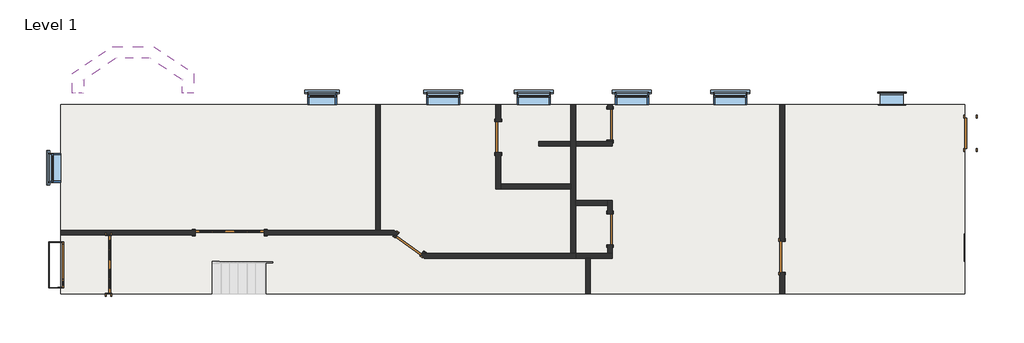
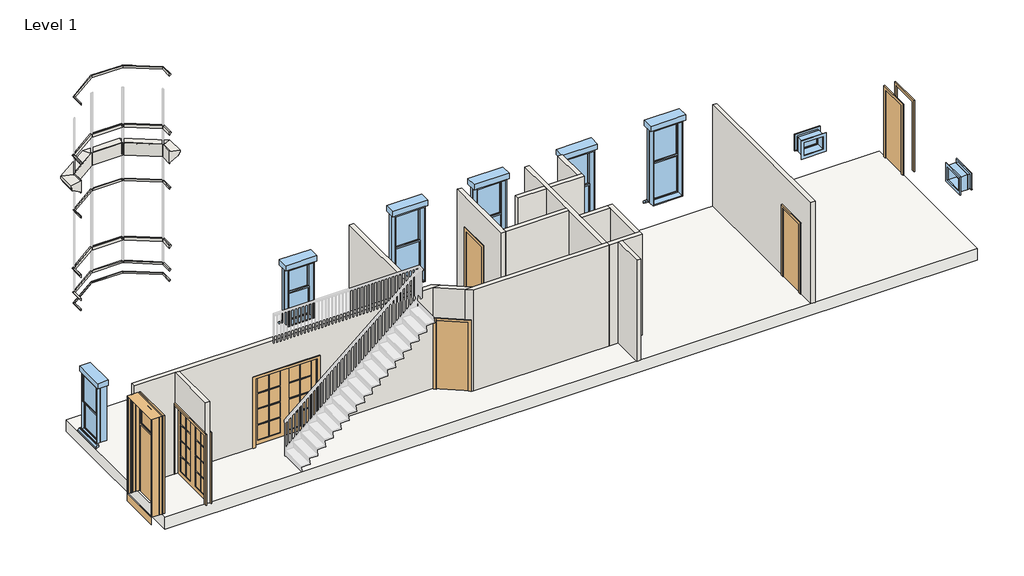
# One storey, part 1 of 2: 17 walls, 9 doors, 8 windows, 1 slab.
"""IFC4 building model written with IfcOpenShell, lengths in millimetres."""

from ifc_helpers import new_model, si_unit, frame, origin, origin_with_axes, place, context, project, spatial, polyline, outline, extrude, faceted_brep, transform, mapped, element, save
from components import door_341c2aa2, door_916035b4, door_1501_frontdoor_door_1501_frontdoor_4eb3a074, door_a55f82fb, door_a75b9756, door_ba4c5d75, bay_trim1_bay_trim_52e5bb5f, window_3f22af70, window_0ba6dfd4, window_bb48f2e8

model = new_model("IFC4")

# Units and contexts
model_context = context("Model", 3, world=origin())
ifc_project = project(units=[si_unit("LENGTHUNIT", "METRE", prefix="MILLI")], contexts=[model_context])

# Site, building, storey
site = spatial("IfcSite", under=ifc_project)
building = spatial("IfcBuilding", under=site)
storey = spatial("IfcBuildingStorey", under=building, Name="Level 1", Elevation=0.0)

# Doors
placement = place(None, origin())
door_shape = door_341c2aa2(model_context)
element("IfcDoor", 1, ObjectType="DOOR- : 60\" x 84\"", at=placement, inside=storey, context=model_context, shape_type="MappedRepresentation", body=[
    mapped(door_shape, transform((-18756.4535292, -1023.9064015, 0.0), x_axis=(0.0, -1.0, 0.0), y_axis=(1.0, 0.0, 0.0), z_axis=(0.0, 0.0, 1.0))),
])
door_2_shape = door_916035b4(model_context)
element("IfcDoor", 2, ObjectType="DOOR- : 72\" x 84\"", at=placement, inside=storey, context=model_context, shape_type="MappedRepresentation", body=[
    mapped(door_2_shape, transform((-15556.0535292, -185.7064015, 0.0), x_axis=(-1.0, 0.0, 0.0), y_axis=(0.0, -1.0, 0.0), z_axis=(0.0, 0.0, 1.0))),
])
door_1501_frontdoor_door_1501_frontdoor_shape = door_1501_frontdoor_door_1501_frontdoor_4eb3a074(model_context)
element("IfcDoor", 3, ObjectType="DOOR-1501 FrontDoor : DOOR-1501 FrontDoor", at=placement, inside=storey, context=model_context, shape_type="MappedRepresentation", body=[
    mapped(door_1501_frontdoor_door_1501_frontdoor_shape, transform((-20166.1535292, -1036.6064015, 0.0), x_axis=(0.0, -1.0, 0.0), y_axis=(1.0, 0.0, 0.0), z_axis=(0.0, 0.0, 1.0))),
])
door_3_shape = door_a55f82fb(model_context)
element("IfcDoor", 4, ObjectType="DOOR-Single-Flush : 32\" x 84\"", at=placement, inside=storey, context=model_context, shape_type="MappedRepresentation", body=[
    mapped(door_3_shape, transform((4001.9464708, 2443.1935985, 0.0), x_axis=(0.0, 1.0, 0.0), y_axis=(-1.0, 0.0, 0.0), z_axis=(0.0, 0.0, 1.0))),
])
door_4_shape = door_a75b9756(model_context)
element("IfcDoor", 5, ObjectType="DOOR-Single-Flush : 32\" x 84\"", at=placement, inside=storey, context=model_context, shape_type="MappedRepresentation", body=[
    mapped(door_4_shape, transform((-976.4535292, -820.7064015, 0.0), x_axis=(0.0, 1.0, 0.0), y_axis=(-1.0, 0.0, 0.0), z_axis=(0.0, 0.0, 1.0))),
])
element("IfcDoor", 6, ObjectType="DOOR-Single-Flush : 32\" x 84\"", at=placement, inside=storey, context=model_context, shape_type="MappedRepresentation", body=[
    mapped(door_4_shape, transform((-10809.9382317, -492.9648771, 0.0), x_axis=(-0.8081148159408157, 0.5890249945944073, 0.0), y_axis=(-0.5890249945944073, -0.8081148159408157, 0.0), z_axis=(0.0, 0.0, 1.0))),
])
element("IfcDoor", 7, ObjectType="DOOR-Single-Flush : 32\" x 84\"", at=placement, inside=storey, context=model_context, shape_type="MappedRepresentation", body=[
    mapped(door_4_shape, transform((-5516.7035292, -96.8064015, 0.0), x_axis=(0.0, -1.0, 0.0), y_axis=(1.0, 0.0, 0.0), z_axis=(0.0, 0.0, 1.0))),
])
door_5_shape = door_ba4c5d75(model_context)
element("IfcDoor", 8, ObjectType="DOOR-Single-Flush : 32\" x 84\"", at=placement, inside=storey, context=model_context, shape_type="MappedRepresentation", body=[
    mapped(door_5_shape, transform((-8469.4535292, 2341.5935985, 0.0), x_axis=(0.0, -1.0, 0.0), y_axis=(1.0, 0.0, 0.0), z_axis=(0.0, 0.0, 1.0))),
])
element("IfcDoor", 9, ObjectType="DOOR-Single-Flush : 32\" x 84\"", at=placement, inside=storey, context=model_context, shape_type="MappedRepresentation", body=[
    mapped(door_5_shape, transform((-5516.7035292, 2671.7935985, 0.0), x_axis=(0.0, 1.0, 0.0), y_axis=(-1.0, 0.0, 0.0), z_axis=(0.0, 0.0, 1.0))),
])

# Slab
element("IfcSlab", 10, ObjectType="1501 Joist floor", at=placement, inside=storey, context=model_context, shape_type="Brep", body=[
    faceted_brep([(-20013.7535292, 3205.1935985, -361.95), (3849.5464708, 3205.1935985, -361.95), (3849.5464708, -1798.6064015, -361.95), (-20013.7535292, -1798.6064015, -361.95), (-20013.7535292, 3205.1935985, 0.0), (-20013.7535292, -427.0064015, 0.0), (-20013.7535292, -1646.2064015, 0.0), (-20013.7535292, -1798.6064015, 0.0), (3849.5464708, -1798.6064015, 0.0), (3849.5464708, 2036.7935985, 0.0), (3849.5464708, 2849.5935985, 0.0), (3849.5464708, 3205.1935985, 0.0)], [[[0, 1, 2, 3]], [[4, 5, 6, 7, 8, 9, 10, 11]], [[1, 0, 4, 11]], [[2, 1, 11, 10, 9, 8]], [[3, 2, 8, 7]], [[0, 3, 7, 6, 5, 4]]]),
])

# Walls
bay_trim1_bay_trim_shape = bay_trim1_bay_trim_52e5bb5f(model_context)
element("IfcWall", 11, ObjectType="Bay trim1 : Bay trim", at=placement, inside=storey, context=model_context, shape_type="MappedRepresentation", body=[
    mapped(bay_trim1_bay_trim_shape, transform((0.0, 0.0, 0.0), x_axis=(1.0, 0.0, 0.0), y_axis=(0.0, 1.0, 0.0), z_axis=(0.0, 0.0, 1.0))),
])
element("IfcWall", 12, ObjectType="Generic - 5\"", at=placement, inside=storey, context=model_context, shape_type="Brep", body=[
    faceted_brep([(-20013.7535292, -249.2064015, 3143.25), (-20013.7535292, -249.2064015, 0.0), (-18819.9535292, -249.2064015, 0.0), (-18692.9535292, -249.2064015, 0.0), (-16470.4535292, -249.2064015, 0.0), (-16470.4535292, -249.2064015, 2133.6), (-14641.6535292, -249.2064015, 2133.6), (-14641.6535292, -249.2064015, 0.0), (-11252.1687619, -249.2064015, 0.0), (-11135.1644991, -249.2064015, 0.0), (-11135.1644991, -249.2064015, 2133.6), (-11036.558217, -249.2064015, 2133.6), (-11036.558217, -249.2064015, 3143.25), (-11252.1687619, -249.2064015, 3143.25), (-18692.9535292, -249.2064015, 3143.25), (-18819.9535292, -249.2064015, 3143.25), (-20013.7535292, -122.2064015, 0.0), (-20013.7535292, -122.2064015, 3143.25), (-11707.9535292, -122.2064015, 3143.25), (-11580.9535292, -122.2064015, 3143.25), (-11210.7962928, -122.2064015, 3143.25), (-11210.7962928, -122.2064015, 0.0), (-11580.9535292, -122.2064015, 0.0), (-11707.9535292, -122.2064015, 0.0), (-14641.6535292, -122.2064015, 0.0), (-14641.6535292, -122.2064015, 2133.6), (-16470.4535292, -122.2064015, 2133.6), (-16470.4535292, -122.2064015, 0.0), (-11100.9530057, -202.2698285, 0.0), (-11100.9530057, -202.2698285, 2133.6)], [[[0, 1, 2, 3, 4, 5, 6, 7, 8, 9, 10, 11, 12, 13, 14, 15]], [[16, 17, 18, 19, 20, 21, 22, 23, 24, 25, 26, 27]], [[1, 16, 27, 4, 3, 2]], [[24, 23, 22, 21, 28, 9, 8, 7]], [[1, 0, 17, 16]], [[21, 20, 12, 11, 29, 28]], [[26, 5, 4, 27]], [[5, 26, 25, 6]], [[6, 25, 24, 7]], [[29, 10, 9, 28]], [[10, 29, 11]], [[0, 15, 14, 13, 12, 20, 19, 18, 17]]]),
])
element("IfcWall", 13, ObjectType="Generic - 5\"", at=placement, inside=storey, context=model_context, shape_type="SweptSolid", body=[
    extrude(outline(polyline([(-11580.9535292, 3205.1935985), (-11580.9535292, -122.2064015), (-11707.9535292, -122.2064015), (-11707.9535292, 3205.1935985), (-11580.9535292, 3205.1935985)])), origin_with_axes(), (0.0, 0.0, 1.0), 3143.25),
])
element("IfcWall", 14, ObjectType="Generic - 5\"", at=placement, inside=storey, context=model_context, shape_type="Brep", body=[
    faceted_brep([(-10415.8259983, -858.8064015, 0.0), (-6424.7535292, -858.8064015, 0.0), (-6424.7535292, -858.8064015, 3143.25), (-10415.8259983, -858.8064015, 3143.25), (-6424.7535292, -731.8064015, 3143.25), (-6424.7535292, -731.8064015, 0.0), (-6551.7535292, -731.8064015, 0.0), (-10374.4535292, -731.8064015, 0.0), (-10481.1280587, -731.8064015, 0.0), (-10481.1280587, -731.8064015, 2133.6), (-10590.064074, -731.8064015, 2133.6), (-10590.064074, -731.8064015, 3143.25), (-10374.4535292, -731.8064015, 3143.25), (-6551.7535292, -731.8064015, 3143.25), (-10518.9234576, -783.6599257, 0.0), (-10518.9234576, -783.6599257, 2133.6)], [[[0, 1, 2, 3]], [[4, 5, 6, 7, 8, 9, 10, 11, 12, 13]], [[1, 0, 14, 8, 7, 6, 5]], [[2, 1, 5, 4]], [[0, 3, 11, 10, 15, 14]], [[9, 15, 10]], [[15, 9, 8, 14]], [[3, 2, 4, 13, 12, 11]]]),
])
element("IfcWall", 15, ObjectType="Generic - 5\"", at=placement, inside=storey, context=model_context, shape_type="Brep", body=[
    faceted_brep([(-6551.7535292, 3205.1935985, 0.0), (-6551.7535292, 2227.2935985, 0.0), (-6551.7535292, 2100.2935985, 0.0), (-6551.7535292, 1096.9935985, 0.0), (-6551.7535292, 969.9935985, 0.0), (-6551.7535292, -731.8064015, 0.0), (-6551.7535292, -731.8064015, 3143.25), (-6551.7535292, 969.9935985, 3143.25), (-6551.7535292, 1096.9935985, 3143.25), (-6551.7535292, 2100.2935985, 3143.25), (-6551.7535292, 2227.2935985, 3143.25), (-6551.7535292, 3205.1935985, 3143.25), (-6424.7535292, 3205.1935985, 0.0), (-6424.7535292, 3205.1935985, 3143.25), (-6424.7535292, 2227.2935985, 3143.25), (-6424.7535292, 2100.2935985, 3143.25), (-6424.7535292, 665.1935985, 3143.25), (-6424.7535292, 538.1935985, 3143.25), (-6424.7535292, -731.8064015, 3143.25), (-6424.7535292, -731.8064015, 0.0), (-6424.7535292, 538.1935985, 0.0), (-6424.7535292, 665.1935985, 0.0), (-6424.7535292, 2100.2935985, 0.0), (-6424.7535292, 2227.2935985, 0.0)], [[[0, 1, 2, 3, 4, 5, 6, 7, 8, 9, 10, 11]], [[12, 13, 14, 15, 16, 17, 18, 19, 20, 21, 22, 23]], [[5, 4, 3, 2, 1, 0, 12, 23, 22, 21, 20, 19]], [[0, 11, 13, 12]], [[6, 5, 19, 18]], [[11, 10, 9, 8, 7, 6, 18, 17, 16, 15, 14, 13]]]),
])
element("IfcWall", 16, ObjectType="Generic - 5\"", at=placement, inside=storey, context=model_context, shape_type="Brep", body=[
    faceted_brep([(-11252.1687619, -249.2064015, 3143.25), (-11252.1687619, -249.2064015, 0.0), (-11175.75918, -304.9004101, 0.0), (-11175.75918, -304.9004101, 2133.6), (-10590.064074, -731.8064015, 2133.6), (-10590.064074, -731.8064015, 3143.25), (-10374.4535292, -731.8064015, 3143.25), (-10374.4535292, -731.8064015, 0.0), (-10444.1172833, -681.0293441, 0.0), (-10444.1172833, -681.0293441, 2133.6), (-11036.558217, -249.2064015, 2133.6), (-11036.558217, -249.2064015, 3143.25), (-11135.1644991, -249.2064015, 0.0), (-10481.1280587, -731.8064015, 0.0), (-11135.1644991, -249.2064015, 2133.6), (-10481.1280587, -731.8064015, 2133.6)], [[[0, 1, 2, 3, 4, 5]], [[6, 7, 8, 9, 10, 11]], [[2, 1, 12]], [[8, 7, 13]], [[1, 0, 11, 10, 14, 12]], [[7, 6, 5, 4, 15, 13]], [[14, 3, 2, 12]], [[3, 14, 10, 9, 15, 4]], [[15, 9, 8, 13]], [[0, 5, 6, 11]]]),
])
element("IfcWall", 17, ObjectType="Generic - 5\"", at=placement, inside=storey, context=model_context, shape_type="Brep", body=[
    faceted_brep([(-8532.9535292, 1935.1935985, 2133.6), (-8532.9535292, 1935.1935985, 0.0), (-8532.9535292, 969.9935985, 0.0), (-8532.9535292, 969.9935985, 3143.25), (-8532.9535292, 3205.1935985, 3143.25), (-8532.9535292, 3205.1935985, 0.0), (-8532.9535292, 2747.9935985, 0.0), (-8532.9535292, 2747.9935985, 2133.6), (-8405.9535292, 969.9935985, 0.0), (-8405.9535292, 1096.9935985, 0.0), (-8405.9535292, 1935.1935985, 0.0), (-8405.9535292, 1935.1935985, 2133.6), (-8405.9535292, 2747.9935985, 2133.6), (-8405.9535292, 2747.9935985, 0.0), (-8405.9535292, 3205.1935985, 0.0), (-8405.9535292, 3205.1935985, 3143.25), (-8405.9535292, 1096.9935985, 3143.25), (-8405.9535292, 969.9935985, 3143.25)], [[[0, 1, 2, 3, 4, 5, 6, 7]], [[8, 9, 10, 11, 12, 13, 14, 15, 16, 17]], [[6, 5, 14, 13]], [[2, 1, 10, 9, 8]], [[5, 4, 15, 14]], [[3, 2, 8, 17]], [[11, 10, 1, 0]], [[12, 11, 0, 7]], [[13, 12, 7, 6]], [[4, 3, 17, 16, 15]]]),
])
element("IfcWall", 18, ObjectType="Generic - 5\"", at=placement, inside=storey, context=model_context, shape_type="SweptSolid", body=[
    extrude(outline(polyline([(-6551.7535292, 969.9935985), (-8405.9535292, 969.9935985), (-8405.9535292, 1096.9935985), (-6551.7535292, 1096.9935985), (-6551.7535292, 969.9935985)])), origin_with_axes(), (0.0, 0.0, 1.0), 3143.25),
])
element("IfcWall", 19, ObjectType="Generic - 5\"", at=placement, inside=storey, context=model_context, shape_type="SweptSolid", body=[
    extrude(outline(polyline([(-6551.7535292, 2100.2935985), (-7402.6535292, 2100.2935985), (-7402.6535292, 2227.2935985), (-6551.7535292, 2227.2935985), (-6551.7535292, 2100.2935985)])), origin_with_axes(), (0.0, 0.0, 1.0), 3143.25),
])
element("IfcWall", 20, ObjectType="Generic - 5\"", at=placement, inside=storey, context=model_context, shape_type="Brep", body=[
    faceted_brep([(-6424.7535292, -858.8064015, 0.0), (-6161.3259983, -858.8064015, 0.0), (-6034.3259983, -858.8064015, 0.0), (-5453.2035292, -858.8064015, 0.0), (-5453.2035292, -858.8064015, 3143.25), (-6034.3259983, -858.8064015, 3143.25), (-6161.3259983, -858.8064015, 3143.25), (-6424.7535292, -858.8064015, 3143.25), (-6424.7535292, -731.8064015, 0.0), (-6424.7535292, -731.8064015, 3143.25), (-5580.2035292, -731.8064015, 3143.25), (-5453.2035292, -731.8064015, 3143.25), (-5453.2035292, -731.8064015, 0.0), (-5580.2035292, -731.8064015, 0.0)], [[[0, 1, 2, 3, 4, 5, 6, 7]], [[8, 9, 10, 11, 12, 13]], [[3, 2, 1, 0, 8, 13, 12]], [[0, 7, 9, 8]], [[4, 3, 12, 11]], [[7, 6, 5, 4, 11, 10, 9]]]),
])
element("IfcWall", 21, ObjectType="Generic - 5\"", at=placement, inside=storey, context=model_context, shape_type="Brep", body=[
    faceted_brep([(-5453.2035292, -731.8064015, 0.0), (-5453.2035292, -503.2064015, 0.0), (-5453.2035292, -503.2064015, 2133.6), (-5453.2035292, 309.5935985, 2133.6), (-5453.2035292, 309.5935985, 0.0), (-5453.2035292, 665.1935985, 0.0), (-5453.2035292, 665.1935985, 3143.25), (-5453.2035292, -731.8064015, 3143.25), (-5580.2035292, -503.2064015, 2133.6), (-5580.2035292, -503.2064015, 0.0), (-5580.2035292, -731.8064015, 0.0), (-5580.2035292, -731.8064015, 3143.25), (-5580.2035292, 538.1935985, 3143.25), (-5580.2035292, 665.1935985, 3143.25), (-5580.2035292, 665.1935985, 0.0), (-5580.2035292, 538.1935985, 0.0), (-5580.2035292, 309.5935985, 0.0), (-5580.2035292, 309.5935985, 2133.6)], [[[0, 1, 2, 3, 4, 5, 6, 7]], [[8, 9, 10, 11, 12, 13, 14, 15, 16, 17]], [[10, 9, 1, 0]], [[16, 15, 14, 5, 4]], [[0, 7, 11, 10]], [[6, 5, 14, 13]], [[2, 1, 9, 8]], [[3, 2, 8, 17]], [[4, 3, 17, 16]], [[7, 6, 13, 12, 11]]]),
])
element("IfcWall", 22, ObjectType="Generic - 5\"", at=placement, inside=storey, context=model_context, shape_type="SweptSolid", body=[
    extrude(outline(polyline([(-6424.7535292, 665.1935985), (-5580.2035292, 665.1935985), (-5580.2035292, 538.1935985), (-6424.7535292, 538.1935985), (-6424.7535292, 665.1935985)])), origin_with_axes(), (0.0, 0.0, 1.0), 3143.25),
])
element("IfcWall", 23, ObjectType="Generic - 5\"", at=placement, inside=storey, context=model_context, shape_type="Brep", body=[
    faceted_brep([(-5453.2035292, 2227.2935985, 0.0), (-5580.2035292, 2227.2935985, 0.0), (-6424.7535292, 2227.2935985, 0.0), (-6424.7535292, 2227.2935985, 3143.25), (-5580.2035292, 2227.2935985, 3143.25), (-5453.2035292, 2227.2935985, 3143.25), (-5453.2035292, 2100.2935985, 0.0), (-5453.2035292, 2100.2935985, 3143.25), (-6424.7535292, 2100.2935985, 3143.25), (-6424.7535292, 2100.2935985, 0.0)], [[[0, 1, 2, 3, 4, 5]], [[6, 7, 8, 9]], [[2, 1, 0, 6, 9]], [[3, 2, 9, 8]], [[0, 5, 7, 6]], [[5, 4, 3, 8, 7]]]),
])
element("IfcWall", 24, ObjectType="Generic - 5\"", at=placement, inside=storey, context=model_context, shape_type="SweptSolid", body=[
    extrude(outline(polyline([(-6034.3259983, -858.8064015), (-6034.3259983, -1798.6064015), (-6161.3259983, -1798.6064015), (-6161.3259983, -858.8064015), (-6034.3259983, -858.8064015)])), origin_with_axes(), (0.0, 0.0, 1.0), 3143.25),
])
element("IfcWall", 25, ObjectType="Generic - 5\"", at=placement, inside=storey, context=model_context, shape_type="SweptSolid", body=[
    extrude(outline(polyline([(3205.1935985, 3143.25), (3205.1935985, 0.0), (-414.3064015, 0.0), (-414.3064015, 2133.6), (-1227.1064015, 2133.6), (-1227.1064015, 0.0), (-1798.6064015, 0.0), (-1798.6064015, 3143.25), (3205.1935985, 3143.25)])), frame((-1039.9535292, 0.0, 0.0), z_axis=(1.0, 0.0, 0.0), x_axis=(0.0, 1.0, 0.0)), (0.0, 0.0, 1.0), 127.0),
])
element("IfcWall", 26, ObjectType="Generic - 5\"", at=placement, inside=storey, context=model_context, shape_type="SweptSolid", body=[
    extrude(outline(polyline([(3205.1935985, 0.0), (3078.1935985, 0.0), (3078.1935985, 2133.6), (2265.3935985, 2133.6), (2265.3935985, 0.0), (2227.2935985, 0.0), (2227.2935985, 3143.25), (3205.1935985, 3143.25), (3205.1935985, 0.0)])), frame((-5580.2035292, 0.0, 0.0), z_axis=(1.0, 0.0, 0.0), x_axis=(0.0, 1.0, 0.0)), (0.0, 0.0, 1.0), 127.0),
])
element("IfcWall", 27, ObjectType="Generic - 5\"", at=placement, inside=storey, context=model_context, shape_type="SweptSolid", body=[
    extrude(outline(polyline([(-1798.6064015, 0.0), (-1798.6064015, 3143.25), (-249.2064015, 3143.25), (-249.2064015, 0.0), (-261.9064015, 0.0), (-261.9064015, 2133.6), (-1785.9064015, 2133.6), (-1785.9064015, 0.0), (-1798.6064015, 0.0)])), frame((-18819.9535292, 0.0, 0.0), z_axis=(1.0, 0.0, 0.0), x_axis=(0.0, 1.0, 0.0)), (0.0, 0.0, 1.0), 127.0),
])

# Windows
window_shape = window_3f22af70(model_context)
element("IfcWindow", 28, ObjectType="Double Hung : 2' 6\" x 5' 9\" Typical Window", at=placement, inside=storey, context=model_context, shape_type="MappedRepresentation", body=[
    mapped(window_shape, transform((-13117.6535292, 3357.5935985, 0.0), x_axis=(1.0, 0.0, 0.0), y_axis=(0.0, 1.0, 0.0), z_axis=(0.0, 0.0, 1.0))),
])
element("IfcWindow", 29, ObjectType="Double Hung : 2' 6\" x 5' 9\" Typical Window", at=placement, inside=storey, context=model_context, shape_type="MappedRepresentation", body=[
    mapped(window_shape, transform((-20166.1535292, 1528.7935985, 0.0), x_axis=(0.0, 1.0, 0.0), y_axis=(-1.0, 0.0, 0.0), z_axis=(0.0, 0.0, 1.0))),
])
window_2_shape = window_0ba6dfd4(model_context)
element("IfcWindow", 30, ObjectType="Transom with Trim : 24\" x 18\"", at=placement, inside=storey, context=model_context, shape_type="MappedRepresentation", body=[
    mapped(window_2_shape, transform((1957.2464708, 3357.5935985, -1549.4), x_axis=(1.0, 0.0, 0.0), y_axis=(0.0, 1.0, 0.0), z_axis=(0.0, 0.0, 1.0))),
])
element("IfcWindow", 31, ObjectType="Transom with Trim : 24\" x 18\"", at=placement, inside=storey, context=model_context, shape_type="MappedRepresentation", body=[
    mapped(window_2_shape, transform((4001.9464708, -617.5064015, -957.2386099), x_axis=(0.0, -1.0, 0.0), y_axis=(1.0, 0.0, 0.0), z_axis=(0.0, 0.0, 1.0))),
])
window_3_shape = window_bb48f2e8(model_context)
element("IfcWindow", 32, ObjectType="WINDOW-Double Hung : 34.5\" x 92\" Typical 1st flr Window", at=placement, inside=storey, context=model_context, shape_type="MappedRepresentation", body=[
    mapped(window_3_shape, transform((-2348.0535292, 3357.5935985, 0.0), x_axis=(1.0, 0.0, 0.0), y_axis=(0.0, 1.0, 0.0), z_axis=(0.0, 0.0, 1.0))),
])
element("IfcWindow", 33, ObjectType="WINDOW-Double Hung : 34.5\" x 92\" Typical 1st flr Window", at=placement, inside=storey, context=model_context, shape_type="MappedRepresentation", body=[
    mapped(window_3_shape, transform((-4938.8535292, 3357.5935985, 0.0), x_axis=(1.0, 0.0, 0.0), y_axis=(0.0, 1.0, 0.0), z_axis=(0.0, 0.0, 1.0))),
])
element("IfcWindow", 34, ObjectType="WINDOW-Double Hung : 34.5\" x 92\" Typical 1st flr Window", at=placement, inside=storey, context=model_context, shape_type="MappedRepresentation", body=[
    mapped(window_3_shape, transform((-7529.6535292, 3357.5935985, 0.0), x_axis=(1.0, 0.0, 0.0), y_axis=(0.0, 1.0, 0.0), z_axis=(0.0, 0.0, 1.0))),
])
element("IfcWindow", 35, ObjectType="WINDOW-Double Hung : 34.5\" x 92\" Typical 1st flr Window", at=placement, inside=storey, context=model_context, shape_type="MappedRepresentation", body=[
    mapped(window_3_shape, transform((-9917.2535292, 3357.5935985, 0.0), x_axis=(1.0, 0.0, 0.0), y_axis=(0.0, 1.0, 0.0), z_axis=(0.0, 0.0, 1.0))),
])

save(model, "model.ifc")
